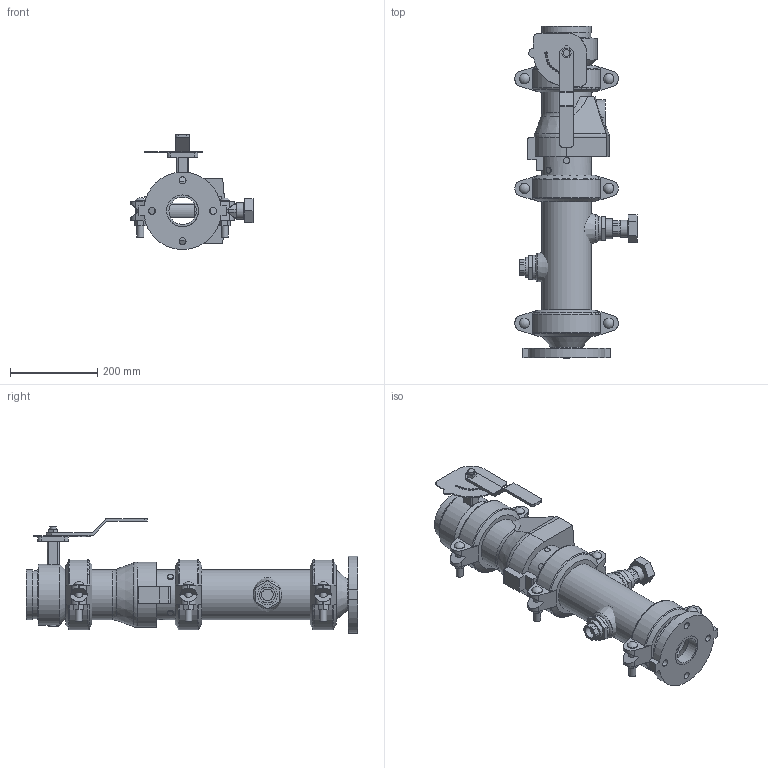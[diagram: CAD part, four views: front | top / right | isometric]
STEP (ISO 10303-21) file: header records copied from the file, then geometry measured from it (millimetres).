
FILE_DESCRIPTION(/* description */ ('VIC DVI PUMP DROP VERT S/380 (OGSxFLG) (S/924-1.25)','CAx-IF Rec.Pracs.---Representation and Presentation of Product Manufacturing Information (PMI)---4.0---2014-10-13'),/* implementation_level */ '2;1');
FILE_NAME(/* name */ 'C:\Users\Public\Documents\Victaulic.Temp\A765\Victaulic_IPS_Vertical DVI_CL 150_Series 380 (OGSxFLG)_924 (1.25)_04.0x02.5 (100x65).stp',/* time_stamp */ '2022-07-25T11:10:43+02:00',/* author */ ('Vjadhav'),/* organization */ ('Victaulic'),/* preprocessor_version */ 'ST-DEVELOPER v18',/* originating_system */ 'Autodesk Inventor 2020',/* authorisation */ '');
FILE_SCHEMA (('AP242_MANAGED_MODEL_BASED_3D_ENGINEERING_MIM_LF { 1 0 10303 442 1 1 4 }'));
Length unit declared in the file: inch
Products named in the file (9): 380_924 (1.25)-04.0x02.5; 741-02.5; 050-04.0x02.5; Pipe-04.0; 177N-04.0; 761-04.0; 779-04.0; 923-04.0x0.75; 924-04.0x01.25
Assembly tree (10 placements, depth 2):
  380_924 (1.25)-04.0x02.5
    741-02.5
    050-04.0x02.5
    177N-04.0  x3
    Pipe-04.0
    761-04.0
    779-04.0
    923-04.0x0.75
    924-04.0x01.25
Bounding box: 280.36 x 762 x 263.59 mm (x, y, z)
Volume: 6046584 mm3; surface area: 1072576.6 mm2
Topology: 10 solids, 12 shells, 603 faces, 1567 edges, 1046 vertices
Faces by surface type: plane 356, cylinder 201, cone 20, torus 18, sphere 6, bspline 2
Full cylindrical faces by diameter (mm): 4.826 x10, 8.636 x4, 13.716 x2, 14.986 x2, 15.875 x10, 21.336 x1, 22.86 x1, 23.495 x6, 26.67 x2, 38.608 x1, 42.164 x1, 45.974 x4, 48.514 x1, 55.118 x1, 55.626 x2, 62.713 x1, 69.088 x1, 73.025 x3, 101.6 x3, 102.26 x4, 110.084 x7, 114.3 x19, 139.7 x1
Entity records: 14365 total; most frequent: CARTESIAN_POINT 2828, DIRECTION 2377, ORIENTED_EDGE 2162, EDGE_CURVE 1081, AXIS2_PLACEMENT_3D 899, VERTEX_POINT 726, LINE 579, VECTOR 579
